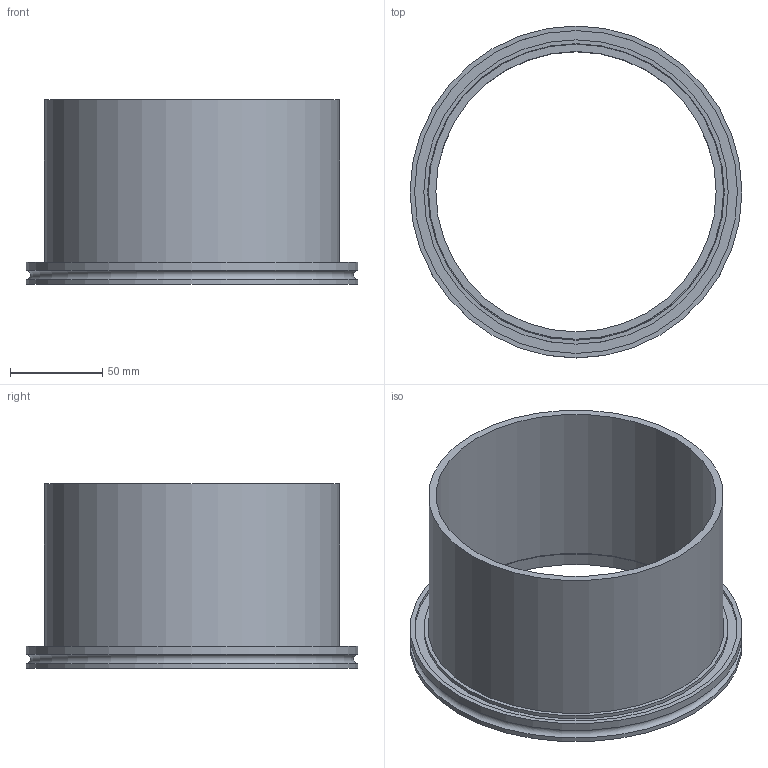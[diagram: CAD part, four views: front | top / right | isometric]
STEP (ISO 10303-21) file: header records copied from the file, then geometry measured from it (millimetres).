
FILE_DESCRIPTION( ( 'Unknown' ), '1' );
FILE_NAME( 'X:/Daten ( aktueller Bestand )/Projekte und Zeichnungen/Solid Edge/STP-Dateien/ISO-K Teile und Zubehör/6573A.stp', 'Unknown', ( 'Unknown' ), ( 'Unknown' ), 'PSStep 14.0', 'Unknown', ' ' );
FILE_SCHEMA( ( 'AUTOMOTIVE_DESIGN { 1 0 10303 214 1 1 1 1 }' ) );
Length unit declared in the file: millimetre
Products named in the file (3): Assem1; 6513 Alu; 6573A
Assembly tree (2 placements, depth 2):
  Assem1
    6513 Alu
    6573A
Bounding box: 180 x 180 x 100 mm (x, y, z)
Volume: 246593.3 mm3; surface area: 125045.8 mm2
Topology: 2 solids, 2 shells, 16 faces, 25 edges, 16 vertices
Faces by surface type: cylinder 8, plane 7, torus 1
Full cylindrical faces by diameter (mm): 152 x1, 153 x1, 160 x1, 160.8 x1, 165 x1, 175 x1, 180 x2
Entity records: 514 total; most frequent: DIRECTION 70, CARTESIAN_POINT 51, AXIS2_PLACEMENT_3D 35, EDGE_LOOP 32, ORIENTED_EDGE 32, FACE_OUTER_BOUND 25, STYLED_ITEM 16, PRESENTATION_STYLE_ASSIGNMENT 16
